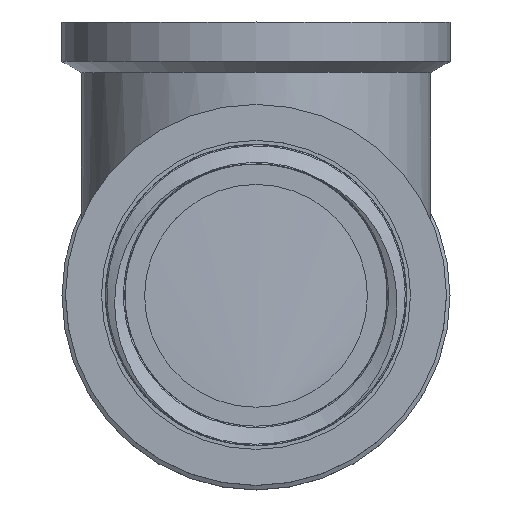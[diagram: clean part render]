
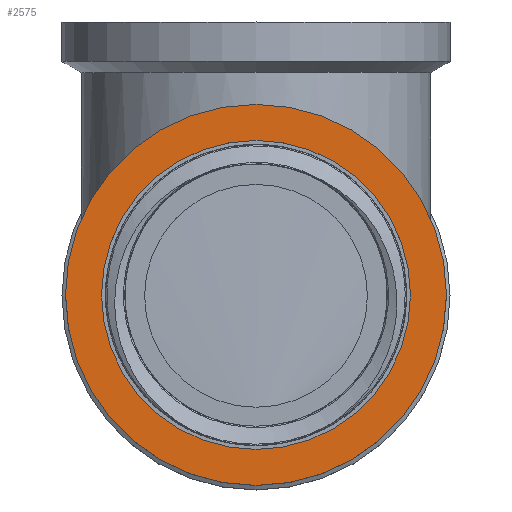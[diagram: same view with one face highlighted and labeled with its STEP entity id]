
A CAD part, top view. The second image highlights one B-rep face of the part: STEP entity #2575.
In plain terms, the highlighted planar face has unit normal (0, 0, 1).
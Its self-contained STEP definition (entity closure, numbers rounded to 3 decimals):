
#32=FACE_BOUND('',#532,.T.);
#277=PLANE('',#2805);
#376=FACE_OUTER_BOUND('',#531,.T.);
#531=EDGE_LOOP('',(#2126,#2127));
#532=EDGE_LOOP('',(#2128,#2129));
#987=CIRCLE('',#2803,13.25);
#988=CIRCLE('',#2804,13.25);
#989=CIRCLE('',#2806,10.75);
#990=CIRCLE('',#2807,10.75);
#1178=VERTEX_POINT('',#4498);
#1179=VERTEX_POINT('',#4499);
#1180=VERTEX_POINT('',#4504);
#1181=VERTEX_POINT('',#4505);
#1517=EDGE_CURVE('',#1178,#1179,#987,.T.);
#1518=EDGE_CURVE('',#1179,#1178,#988,.T.);
#1520=EDGE_CURVE('',#1180,#1181,#989,.T.);
#1521=EDGE_CURVE('',#1181,#1180,#990,.T.);
#2126=ORIENTED_EDGE('',*,*,#1517,.T.);
#2127=ORIENTED_EDGE('',*,*,#1518,.T.);
#2128=ORIENTED_EDGE('',*,*,#1520,.F.);
#2129=ORIENTED_EDGE('',*,*,#1521,.F.);
#2575=ADVANCED_FACE('',(#376,#32),#277,.T.);
#2803=AXIS2_PLACEMENT_3D('',#4500,#3294,#3295);
#2804=AXIS2_PLACEMENT_3D('',#4501,#3296,#3297);
#2805=AXIS2_PLACEMENT_3D('',#4503,#3299,#3300);
#2806=AXIS2_PLACEMENT_3D('',#4506,#3301,#3302);
#2807=AXIS2_PLACEMENT_3D('',#4507,#3303,#3304);
#3294=DIRECTION('center_axis',(0.,0.,1.));
#3295=DIRECTION('ref_axis',(1.,0.,0.));
#3296=DIRECTION('center_axis',(0.,0.,1.));
#3297=DIRECTION('ref_axis',(1.,0.,0.));
#3299=DIRECTION('center_axis',(0.,0.,1.));
#3300=DIRECTION('ref_axis',(1.,0.,0.));
#3301=DIRECTION('center_axis',(0.,0.,1.));
#3302=DIRECTION('ref_axis',(1.,0.,0.));
#3303=DIRECTION('center_axis',(0.,0.,1.));
#3304=DIRECTION('ref_axis',(1.,0.,0.));
#4498=CARTESIAN_POINT('',(0.,-13.25,22.));
#4499=CARTESIAN_POINT('',(0.,13.25,22.));
#4500=CARTESIAN_POINT('Origin',(0.,0.,22.));
#4501=CARTESIAN_POINT('Origin',(0.,0.,22.));
#4503=CARTESIAN_POINT('Origin',(0.,-10.75,22.));
#4504=CARTESIAN_POINT('',(0.,-10.75,22.));
#4505=CARTESIAN_POINT('',(0.,10.75,22.));
#4506=CARTESIAN_POINT('Origin',(0.,0.,22.));
#4507=CARTESIAN_POINT('Origin',(0.,0.,22.));
